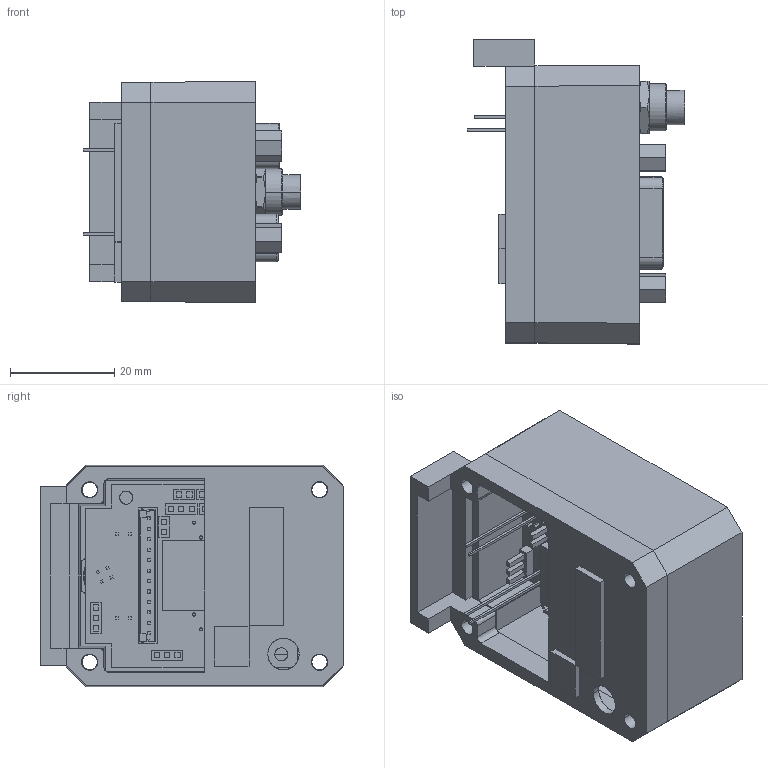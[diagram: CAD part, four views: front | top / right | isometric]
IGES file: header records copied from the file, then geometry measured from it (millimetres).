
Start section: SolidWorks IGES file using analytic representation for surfaces
Global section: file name: C:\Users\render\Documents\CAD Files\CoolmuscleMotors\CM1-InterfaceOptions\CM1SRL\CM1SRL.IGS; native system: SolidWorks 2009; preprocessor: SolidWorks 2009; author: render; date: 100625.133357; units: millimetre
Bounding box: 41.7 x 58.17 x 42.35 mm (x, y, z)
Surface area: 29039.5 mm2 (no closed solid volume)
Topology: 0 solids, 0 shells, 1402 faces, 13012 edges, 13003 vertices
Faces by surface type: bspline 1002, revolution 400
